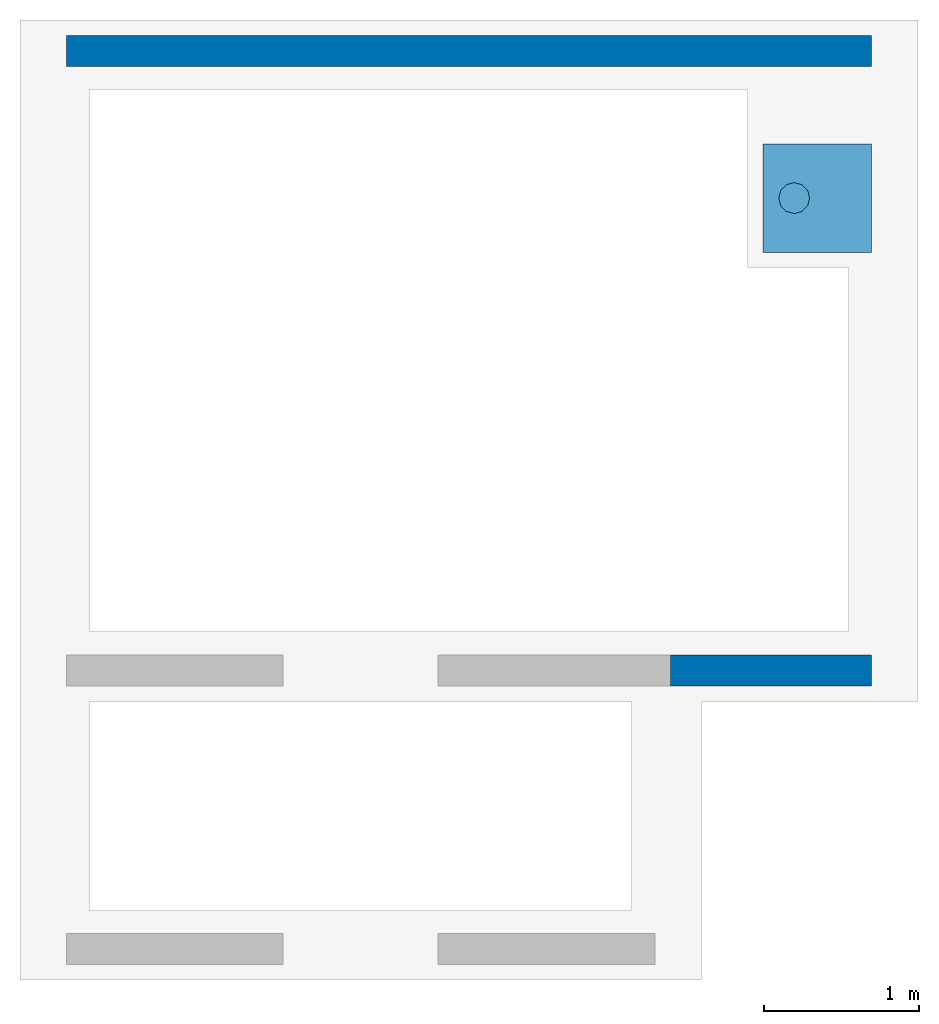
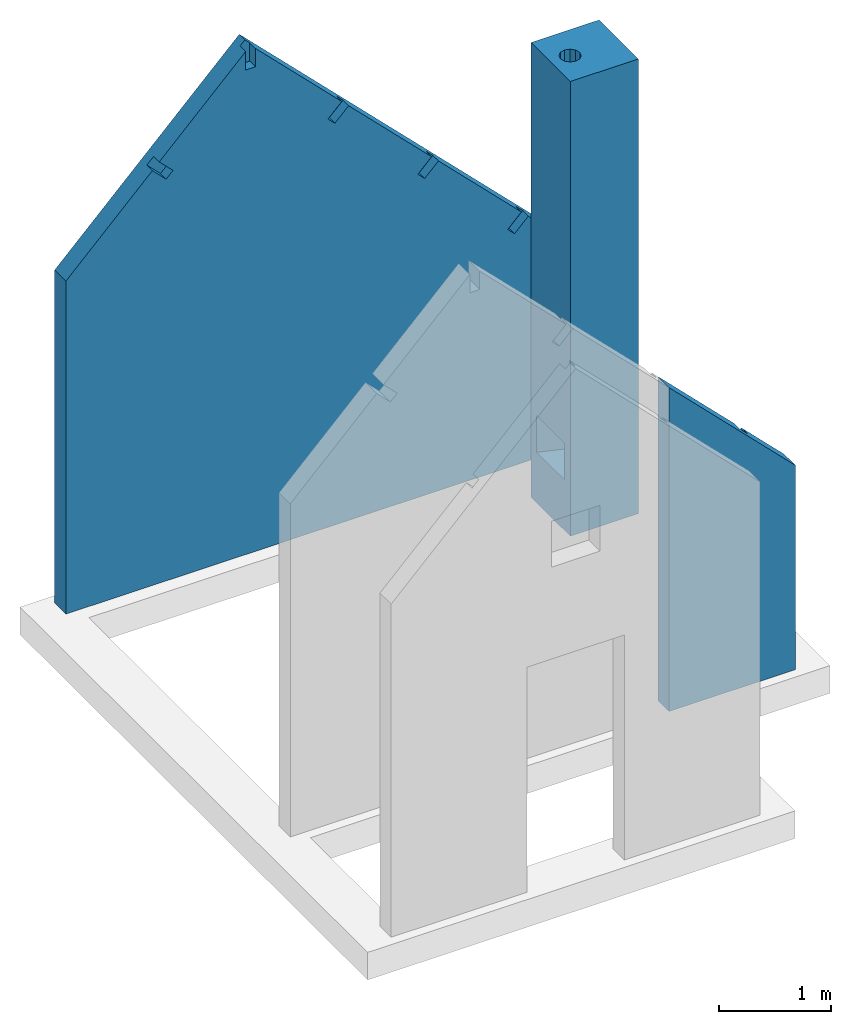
# One storey, part 2 of 2: 2 walls, 1 chimney.
"""IFC4 building model written with IfcOpenShell, lengths in millimetres."""

from ifc_helpers import new_model, si_unit, frame, origin_with_axes, place, context, subcontext, project, spatial, triangles, material, type_object, element, save


model = new_model("IFC4")

# Units and contexts
model_context = context("Model", 3, world=origin_with_axes())
body_context = subcontext(model_context, "Body", "Model", "MODEL_VIEW")
ifc_project = project(units=[si_unit("LENGTHUNIT", "METRE", prefix="MILLI"), si_unit("AREAUNIT", "SQUARE_METRE"), si_unit("VOLUMEUNIT", "CUBIC_METRE")], contexts=[model_context])

# Sites, building, storey
site_1_placement = place(None, origin_with_axes())
site_1 = spatial("IfcSite", under=ifc_project, at=site_1_placement, Name="environment - site", CompositionType="COMPLEX")
site_2_placement = place(site_1_placement, frame((5800.000000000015, 5800.000000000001, -1300.0000000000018), z_axis=(0.0, 0.0, 1.0), x_axis=(1.0, 0.0, 0.0)))
site_2 = spatial("IfcSite", under=site_1, at=site_2_placement, Name="house - site", CompositionType="PARTIAL")
building_placement = place(site_2_placement, frame((-2799.999999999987, -2799.9999999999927, 1300.0), z_axis=(0.0, 0.0, 1.0), x_axis=(1.0, 0.0, 0.0)))
building = spatial("IfcBuilding", under=site_2, at=building_placement, Name="Single-family house", CompositionType="ELEMENT")
storey_placement = place(building_placement, origin_with_axes())
storey = spatial("IfcBuildingStorey", under=building, at=storey_placement, Name="00 groundfloor", CompositionType="ELEMENT", Elevation=-1.8047785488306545e-12)

# Walls
ifc_material = material(Name="stone_sand-lime")
wall_type_1 = type_object("IfcWallType", Name="house - outer wall - house back", PredefinedType="SOLIDWALL")
wall_1_placement = place(storey_placement, frame((200.00000000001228, 5900.000000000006, -3.6095570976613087e-13), z_axis=(0.0, 0.0, 1.0), x_axis=(1.0, 0.0, 0.0)))
element("IfcWall", 1, at=wall_1_placement, inside=storey, type_object=wall_type_1, material=ifc_material, Name="house - outer wall - house back", ObjectType="solidwall", context=body_context, shape_type="Tessellation", body=[
    triangles([(-1.739355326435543e-11, 99.99999999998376, 3375.7359312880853), (5200.000000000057, 99.9999999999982, -250.00000000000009), (-2.752287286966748e-12, 99.9999999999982, -250.00000000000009), (5200.000000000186, 99.99999999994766, 1975.7359312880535), (1899.9999999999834, 99.99999999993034, 5275.7359312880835), (-1.739355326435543e-11, 99.99999999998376, 3375.7359312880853), (4.714983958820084e-12, -99.99999999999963, -250.00000000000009), (-9.813483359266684e-12, -100.0000000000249, 3375.735931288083), (-2.752287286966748e-12, 99.9999999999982, -250.00000000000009), (5200.000000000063, -100.00000000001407, -249.99999999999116), (5200.000000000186, 99.99999999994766, 1975.7359312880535), (5200.000000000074, -100.00000000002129, 1975.7359312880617), (5200.000000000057, 99.9999999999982, -250.00000000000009), (4760.355339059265, -100.00000000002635, 2415.3805922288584), (4618.933982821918, -100.00000000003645, 2273.9592359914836), (5200.000000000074, -100.00000000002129, 1975.7359312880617), (3835.355339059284, -100.00000000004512, 3340.380592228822), (3693.9339828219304, -100.00000000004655, 3198.9592359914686), (4689.64466094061, -100.00000000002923, 2486.091270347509), (5200.000000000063, -100.00000000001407, -249.99999999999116), (-9.813483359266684e-12, -100.0000000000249, 3375.735931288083), (4.714983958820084e-12, -99.99999999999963, -250.00000000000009), (4548.223304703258, -100.00000000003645, 2344.6699141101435), (3623.2233047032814, -100.00000000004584, 3269.6699141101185), (3764.6446609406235, -100.00000000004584, 3411.091270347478), (1031.0660171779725, -100.00000000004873, 4123.959235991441), (889.6446609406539, -100.00000000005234, 4265.380592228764), (2768.933982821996, -100.0000000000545, 4123.959235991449), (2910.355339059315, -100.000000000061, 4265.380592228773), (1949.9999999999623, -100.00000000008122, 5225.735931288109), (1949.999999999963, -100.00000000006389, 5025.735931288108), (2839.6446609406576, -100.00000000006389, 4336.0912703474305), (1101.7766952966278, -100.00000000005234, 4194.669914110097), (2698.2233047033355, -100.0000000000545, 4194.669914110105), (960.3553390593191, -100.00000000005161, 4336.091270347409), (1849.9999999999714, -100.00000000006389, 5025.735931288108), (1849.9999999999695, -100.00000000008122, 5225.735931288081), (1066.4213562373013, -9.24046617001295e-11, 4159.314575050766), (889.6446609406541, -9.312657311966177e-11, 4265.380592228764), (1031.06601717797, -9.24046617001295e-11, 4123.959235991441), (1101.7766952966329, -9.312657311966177e-11, 4194.66991411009), (960.3553390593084, -8.446363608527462e-11, 4336.091270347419), (2910.355339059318, -8.013216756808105e-11, 4265.380592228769), (2733.578643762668, -7.435687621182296e-11, 4159.31457505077), (2768.9339828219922, -7.36349647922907e-11, 4123.959235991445), (2698.2233047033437, -7.36349647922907e-11, 4194.669914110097), (2839.6446609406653, -8.013216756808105e-11, 4336.09127034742), (3835.3553390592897, -7.868834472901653e-11, 3340.3805922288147), (3658.578643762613, -7.219114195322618e-11, 3234.3145750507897), (3693.9339828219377, -7.291305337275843e-11, 3198.9592359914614), (3623.2233047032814, -7.219114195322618e-11, 3269.669914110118), (3764.644660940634, -7.94102561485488e-11, 3411.09127034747), (4760.355339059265, -6.930349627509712e-11, 2415.3805922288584), (4583.578643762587, -7.002540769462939e-11, 2309.314575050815), (4618.933982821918, -7.002540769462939e-11, 2273.9592359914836), (4548.223304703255, -7.002540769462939e-11, 2344.66991411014), (4689.644660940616, -7.7244521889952e-11, 2486.0912703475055), (4760.355339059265, -100.00000000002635, 2415.3805922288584), (4618.933982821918, -7.002540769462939e-11, 2273.9592359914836), (4618.933982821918, -100.00000000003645, 2273.9592359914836), (4760.355339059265, -6.930349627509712e-11, 2415.3805922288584), (3623.2233047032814, -7.219114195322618e-11, 3269.669914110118), (3764.6446609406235, -100.00000000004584, 3411.091270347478), (3623.2233047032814, -100.00000000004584, 3269.6699141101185), (3764.644660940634, -7.94102561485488e-11, 3411.09127034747), (1949.9999999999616, -9.023892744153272e-11, 5225.735931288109), (1949.999999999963, -100.00000000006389, 5025.735931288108), (1949.9999999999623, -100.00000000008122, 5225.735931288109), (1949.9999999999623, -9.023892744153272e-11, 5025.735931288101), (1031.0660171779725, -100.00000000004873, 4123.959235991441), (889.6446609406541, -9.312657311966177e-11, 4265.380592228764), (889.6446609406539, -100.00000000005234, 4265.380592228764), (1031.06601717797, -9.24046617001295e-11, 4123.959235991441), (4548.223304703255, -7.002540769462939e-11, 2344.66991411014), (4689.64466094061, -100.00000000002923, 2486.091270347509), (4548.223304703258, -100.00000000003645, 2344.6699141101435), (4689.644660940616, -7.7244521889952e-11, 2486.0912703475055), (1849.9999999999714, -100.00000000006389, 5025.735931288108), (1849.999999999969, -9.096083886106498e-11, 5225.735931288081), (1849.9999999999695, -100.00000000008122, 5225.735931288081), (1849.9999999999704, -9.096083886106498e-11, 5025.735931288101), (2698.2233047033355, -100.0000000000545, 4194.669914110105), (2839.6446609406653, -8.013216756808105e-11, 4336.09127034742), (2839.6446609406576, -100.00000000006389, 4336.0912703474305), (2698.2233047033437, -7.36349647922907e-11, 4194.669914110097), (2910.355339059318, -8.013216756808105e-11, 4265.380592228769), (2768.933982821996, -100.0000000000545, 4123.959235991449), (2910.355339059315, -100.000000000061, 4265.380592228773), (2768.9339828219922, -7.36349647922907e-11, 4123.959235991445), (3835.355339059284, -100.00000000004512, 3340.380592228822), (3693.9339828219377, -7.291305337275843e-11, 3198.9592359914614), (3693.9339828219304, -100.00000000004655, 3198.9592359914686), (3835.3553390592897, -7.868834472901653e-11, 3340.3805922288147), (1849.9999999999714, -100.00000000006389, 5025.735931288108), (1899.9999999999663, -9.023892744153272e-11, 5025.735931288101), (1849.9999999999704, -9.096083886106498e-11, 5025.735931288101), (1949.999999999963, -100.00000000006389, 5025.735931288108), (1949.9999999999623, -9.023892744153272e-11, 5025.735931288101), (3693.9339828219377, -7.291305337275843e-11, 3198.9592359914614), (3623.2233047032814, -100.00000000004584, 3269.6699141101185), (3693.9339828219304, -100.00000000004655, 3198.9592359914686), (3623.2233047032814, -7.219114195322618e-11, 3269.669914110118), (3658.578643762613, -7.219114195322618e-11, 3234.3145750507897), (960.3553390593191, -100.00000000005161, 4336.091270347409), (1101.7766952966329, -9.312657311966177e-11, 4194.66991411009), (1101.7766952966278, -100.00000000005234, 4194.669914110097), (960.3553390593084, -8.446363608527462e-11, 4336.091270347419), (2768.933982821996, -100.0000000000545, 4123.959235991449), (2698.2233047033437, -7.36349647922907e-11, 4194.669914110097), (2698.2233047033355, -100.0000000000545, 4194.669914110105), (2733.578643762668, -7.435687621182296e-11, 4159.31457505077), (2768.9339828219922, -7.36349647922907e-11, 4123.959235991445), (1031.0660171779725, -100.00000000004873, 4123.959235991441), (1066.4213562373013, -9.24046617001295e-11, 4159.314575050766), (1031.06601717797, -9.24046617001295e-11, 4123.959235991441), (1101.7766952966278, -100.00000000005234, 4194.669914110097), (1101.7766952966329, -9.312657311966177e-11, 4194.66991411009), (4548.223304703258, -100.00000000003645, 2344.6699141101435), (4583.578643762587, -7.002540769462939e-11, 2309.314575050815), (4548.223304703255, -7.002540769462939e-11, 2344.66991411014), (4618.933982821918, -100.00000000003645, 2273.9592359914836), (4618.933982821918, -7.002540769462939e-11, 2273.9592359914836), (1949.9999999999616, -9.023892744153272e-11, 5225.735931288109), (1899.9999999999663, -9.023892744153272e-11, 5025.735931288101), (1949.9999999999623, -9.023892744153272e-11, 5025.735931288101), (1849.9999999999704, -9.096083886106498e-11, 5025.735931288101), (1849.999999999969, -9.096083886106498e-11, 5225.735931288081), (1899.9999999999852, -9.023892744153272e-11, 5275.7359312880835), (1849.999999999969, -9.096083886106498e-11, 5225.735931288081), (960.3553390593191, -100.00000000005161, 4336.091270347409), (1849.9999999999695, -100.00000000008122, 5225.735931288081), (960.3553390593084, -8.446363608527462e-11, 4336.091270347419), (1899.9999999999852, -9.023892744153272e-11, 5275.7359312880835), (1899.9999999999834, 99.99999999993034, 5275.7359312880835), (889.6446609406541, -9.312657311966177e-11, 4265.380592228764), (-9.813483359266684e-12, -100.0000000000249, 3375.735931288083), (889.6446609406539, -100.00000000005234, 4265.380592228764), (-1.739355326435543e-11, 99.99999999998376, 3375.7359312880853), (5200.000000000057, 99.9999999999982, -250.00000000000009), (4.714983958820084e-12, -99.99999999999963, -250.00000000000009), (-2.752287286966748e-12, 99.9999999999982, -250.00000000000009), (5200.000000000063, -100.00000000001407, -249.99999999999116), (3764.6446609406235, -100.00000000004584, 3411.091270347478), (2910.355339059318, -8.013216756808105e-11, 4265.380592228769), (2910.355339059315, -100.000000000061, 4265.380592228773), (4689.64466094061, -100.00000000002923, 2486.091270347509), (3835.3553390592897, -7.868834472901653e-11, 3340.3805922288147), (3835.355339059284, -100.00000000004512, 3340.380592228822), (5200.000000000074, -100.00000000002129, 1975.7359312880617), (4760.355339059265, -6.930349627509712e-11, 2415.3805922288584), (4760.355339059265, -100.00000000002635, 2415.3805922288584), (1899.9999999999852, -9.023892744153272e-11, 5275.7359312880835), (5200.000000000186, 99.99999999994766, 1975.7359312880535), (1899.9999999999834, 99.99999999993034, 5275.7359312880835), (1949.9999999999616, -9.023892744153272e-11, 5225.735931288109), (2839.6446609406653, -8.013216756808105e-11, 4336.09127034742), (1949.9999999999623, -100.00000000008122, 5225.735931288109), (2839.6446609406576, -100.00000000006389, 4336.0912703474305), (3764.644660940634, -7.94102561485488e-11, 3411.09127034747), (4689.644660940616, -7.7244521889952e-11, 2486.0912703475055)], [[1, 2, 3], [2, 1, 4], [4, 1, 5], [6, 7, 8], [7, 6, 9], [10, 11, 12], [11, 10, 13], [14, 15, 16], [17, 18, 19], [20, 21, 22], [21, 20, 16], [21, 16, 15], [21, 15, 23], [21, 23, 19], [21, 19, 18], [21, 18, 24], [21, 24, 25], [21, 25, 26], [21, 26, 27], [25, 28, 26], [28, 25, 29], [30, 31, 32], [28, 33, 26], [33, 28, 34], [33, 34, 35], [35, 34, 32], [35, 32, 36], [35, 36, 37], [36, 32, 31], [38, 39, 40], [39, 38, 41], [39, 41, 42], [43, 44, 45], [44, 43, 46], [46, 43, 47], [48, 49, 50], [49, 48, 51], [51, 48, 52], [53, 54, 55], [54, 53, 56], [56, 53, 57], [58, 59, 60], [59, 58, 61], [62, 63, 64], [63, 62, 65], [66, 67, 68], [67, 66, 69], [70, 71, 72], [71, 70, 73], [74, 75, 76], [75, 74, 77], [78, 79, 80], [79, 78, 81], [82, 83, 84], [83, 82, 85], [86, 87, 88], [87, 86, 89], [90, 91, 92], [91, 90, 93], [94, 95, 96], [95, 94, 97], [95, 97, 98], [99, 100, 101], [100, 99, 102], [102, 99, 103], [104, 105, 106], [105, 104, 107], [108, 109, 110], [109, 108, 111], [111, 108, 112], [113, 114, 115], [114, 113, 116], [114, 116, 117], [118, 119, 120], [119, 118, 121], [119, 121, 122], [123, 124, 125], [124, 123, 126], [126, 123, 127], [127, 123, 128], [129, 130, 131], [130, 129, 132], [132, 129, 133], [132, 133, 134], [135, 136, 137], [136, 135, 138], [138, 135, 132], [138, 132, 134], [139, 140, 141], [140, 139, 142], [143, 144, 145], [146, 147, 148], [149, 150, 151], [152, 153, 154], [153, 152, 155], [153, 155, 156], [156, 155, 157], [156, 157, 158], [153, 156, 144], [153, 144, 159], [159, 144, 143], [153, 159, 147], [153, 147, 160], [160, 147, 146], [153, 160, 150], [153, 150, 149]]),
])
wall_type_2 = type_object("IfcWallType", Name="house - outer wall - house front right", PredefinedType="SOLIDWALL")
wall_2_placement = place(storey_placement, frame((5400.000000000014, 1899.9999999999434, -2.1657342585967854e-11), z_axis=(7.573624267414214e-15, -8.283039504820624e-30, 1.0), x_axis=(-1.0, -1.0824674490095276e-14, 7.573624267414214e-15)))
element("IfcWall", 2, at=wall_2_placement, inside=storey, type_object=wall_type_2, material=ifc_material, Name="house - outer wall - house front right", ObjectType="solidwall", context=body_context, shape_type="Tessellation", body=[
    triangles([(1299.9999999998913, -100.00000000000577, 3275.7359312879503), (1.0106759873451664e-11, -99.99999999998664, -249.9999999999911), (1299.9999999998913, -100.0000000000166, -249.9999999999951), (651.7766952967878, -99.9999999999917, 2344.6699141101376), (581.0660171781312, -99.99999999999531, 2273.9592359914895), (6.136247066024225e-11, -99.99999999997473, 1975.7359312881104), (510.3553390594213, -99.99999999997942, 2486.0912703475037), (439.6446609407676, -99.99999999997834, 2415.380592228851), (616.4213562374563, -9.420944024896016e-11, 2309.314575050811), (439.6446609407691, -9.312657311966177e-11, 2415.3805922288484), (581.0660171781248, -9.384848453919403e-11, 2273.95923599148), (651.7766952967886, -8.987797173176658e-11, 2344.6699141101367), (510.35533905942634, -9.384848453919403e-11, 2486.0912703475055), (510.3553390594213, -99.99999999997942, 2486.0912703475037), (651.7766952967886, -8.987797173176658e-11, 2344.6699141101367), (651.7766952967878, -99.9999999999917, 2344.6699141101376), (510.35533905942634, -9.384848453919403e-11, 2486.0912703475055), (581.0660171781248, -9.384848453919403e-11, 2273.95923599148), (439.6446609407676, -99.99999999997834, 2415.380592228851), (581.0660171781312, -99.99999999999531, 2273.9592359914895), (439.6446609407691, -9.312657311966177e-11, 2415.3805922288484), (581.0660171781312, -99.99999999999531, 2273.9592359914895), (616.4213562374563, -9.420944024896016e-11, 2309.314575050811), (581.0660171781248, -9.384848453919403e-11, 2273.95923599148), (651.7766952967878, -99.9999999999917, 2344.6699141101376), (651.7766952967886, -8.987797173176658e-11, 2344.6699141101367), (1299.9999999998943, 99.99999999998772, -249.99999999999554), (1.0106759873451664e-11, -99.99999999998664, -249.9999999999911), (-2.093543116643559e-11, 99.99999999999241, -250.00000000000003), (1299.9999999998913, -100.0000000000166, -249.9999999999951), (6.136247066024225e-11, -99.99999999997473, 1975.7359312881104), (-2.093543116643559e-11, 99.99999999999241, -250.00000000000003), (1.0106759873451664e-11, -99.99999999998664, -249.9999999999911), (-2.165734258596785e-12, 100.00000000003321, 1975.7359312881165), (1299.9999999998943, 99.99999999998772, -249.99999999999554), (1299.9999999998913, -100.00000000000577, 3275.7359312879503), (1299.9999999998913, -100.0000000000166, -249.9999999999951), (1299.9999999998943, 99.99999999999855, 3275.7359312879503), (1299.9999999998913, -100.00000000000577, 3275.7359312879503), (510.35533905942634, -9.384848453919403e-11, 2486.0912703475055), (510.3553390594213, -99.99999999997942, 2486.0912703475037), (-2.165734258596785e-12, 100.00000000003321, 1975.7359312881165), (439.6446609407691, -9.312657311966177e-11, 2415.3805922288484), (1299.9999999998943, 99.99999999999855, 3275.7359312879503), (6.136247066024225e-11, -99.99999999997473, 1975.7359312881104), (439.6446609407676, -99.99999999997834, 2415.380592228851), (-2.165734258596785e-12, 100.00000000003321, 1975.7359312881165), (1299.9999999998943, 99.99999999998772, -249.99999999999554), (-2.093543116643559e-11, 99.99999999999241, -250.00000000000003), (1299.9999999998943, 99.99999999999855, 3275.7359312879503)], [[1, 2, 3], [2, 1, 4], [2, 4, 5], [2, 5, 6], [4, 1, 7], [8, 6, 5], [9, 10, 11], [10, 9, 12], [10, 12, 13], [14, 15, 16], [15, 14, 17], [18, 19, 20], [19, 18, 21], [22, 23, 24], [23, 22, 25], [23, 25, 26], [27, 28, 29], [28, 27, 30], [31, 32, 33], [32, 31, 34], [35, 36, 37], [36, 35, 38], [39, 40, 41], [42, 43, 44], [43, 42, 45], [43, 45, 46], [44, 43, 40], [44, 40, 39], [47, 48, 49], [48, 47, 50]]),
])

# Chimney
chimney_type = type_object("IfcChimneyType", Name="house - chimney", PredefinedType="USERDEFINED")
chimney_placement = place(storey_placement, frame((4700.000000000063, 5299.999999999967, -1.8769696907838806e-11), z_axis=(0.0, 0.0, 1.0), x_axis=(-1.3322676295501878e-15, -1.0, 0.0)))
element("IfcChimney", 3, at=chimney_placement, inside=storey, type_object=chimney_type, material=ifc_material, Name="house - chimney", ObjectType="flue", context=body_context, shape_type="Tessellation", body=[
    triangles([(699.9999999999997, 699.9999999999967, -249.99999999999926), (699.9999999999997, 0.0, 4700.000000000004), (699.9999999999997, 0.0, -249.99999999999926), (699.9999999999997, 699.9999999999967, 4700.000000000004), (0.0, 0.0, 4700.000000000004), (263.3974596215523, 150.00000000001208, 4700.000000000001), (250.00000000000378, 200.00000000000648, 4700.000000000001), (299.9999999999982, 113.39745962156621, 4700.000000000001), (699.9999999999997, 0.0, 4700.000000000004), (349.99999999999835, 99.99999999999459, 4700.000000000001), (399.9999999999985, 113.39745962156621, 4700.000000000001), (436.6025403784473, 150.00000000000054, 4700.000000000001), (450.0000000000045, 200.00000000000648, 4700.000000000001), (699.9999999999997, 699.9999999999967, 4700.000000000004), (-2.887645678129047e-12, 700.0000000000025, 4700.000000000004), (263.3974596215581, 250.0000000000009, 4700.000000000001), (299.9999999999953, 286.602540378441, 4700.000000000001), (350.00000000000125, 299.99999999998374, 4700.000000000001), (399.9999999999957, 286.6025403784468, 4700.000000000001), (436.6025403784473, 250.00000000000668, 4700.000000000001), (699.9999999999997, 699.9999999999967, -249.99999999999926), (0.0, 0.0, -249.99999999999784), (-2.887645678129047e-12, 700.0000000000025, -249.99999999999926), (699.9999999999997, 0.0, -249.99999999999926), (499.9999999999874, 300.0000000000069, 699.9999999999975), (199.99999999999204, 299.9999999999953, 299.99999999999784), (499.9999999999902, 299.99999999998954, 299.99999999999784), (199.99999999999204, 299.9999999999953, 699.9999999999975), (-2.887645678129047e-12, 700.0000000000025, 4700.000000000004), (699.9999999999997, 699.9999999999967, -249.99999999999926), (-2.887645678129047e-12, 700.0000000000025, -249.99999999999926), (699.9999999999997, 699.9999999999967, 4700.000000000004), (199.99999999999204, 299.9999999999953, 299.99999999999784), (100.00000000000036, 0.0, 700.000000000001), (100.00000000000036, 0.0, 300.0000000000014), (116.66666666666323, 50.00000000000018, 700.0000000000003), (199.99999999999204, 299.9999999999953, 699.9999999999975), (599.9999999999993, 0.0, 300.0000000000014), (199.99999999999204, 299.9999999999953, 299.99999999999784), (100.00000000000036, 0.0, 300.0000000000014), (499.9999999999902, 299.99999999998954, 299.99999999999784), (699.9999999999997, 0.0, -249.99999999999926), (599.9999999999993, 0.0, 300.0000000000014), (0.0, 0.0, -249.99999999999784), (699.9999999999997, 0.0, 4700.000000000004), (599.9999999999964, 0.0, 700.000000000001), (100.00000000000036, 0.0, 700.000000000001), (100.00000000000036, 0.0, 300.0000000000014), (0.0, 0.0, 4700.000000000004), (-2.887645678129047e-12, 700.0000000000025, 4700.000000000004), (0.0, 0.0, -249.99999999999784), (0.0, 0.0, 4700.000000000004), (-2.887645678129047e-12, 700.0000000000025, -249.99999999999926), (116.66666666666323, 50.00000000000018, 700.0000000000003), (599.9999999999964, 0.0, 700.000000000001), (100.00000000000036, 0.0, 700.000000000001), (583.3333333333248, 50.00000000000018, 700.0000000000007), (583.3333333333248, 50.00000000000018, 700.0000000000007), (599.9999999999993, 0.0, 300.0000000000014), (599.9999999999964, 0.0, 700.000000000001), (499.9999999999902, 299.99999999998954, 299.99999999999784), (499.9999999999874, 300.0000000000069, 699.9999999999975)], [[1, 2, 3], [2, 1, 4], [5, 6, 7], [6, 5, 8], [8, 5, 9], [8, 9, 10], [10, 9, 11], [11, 9, 12], [12, 9, 13], [5, 14, 15], [14, 5, 16], [16, 5, 7], [14, 16, 17], [14, 17, 18], [14, 18, 19], [14, 19, 20], [14, 20, 13], [14, 13, 9], [21, 22, 23], [22, 21, 24], [25, 26, 27], [26, 25, 28], [29, 30, 31], [30, 29, 32], [33, 34, 35], [34, 33, 36], [36, 33, 37], [38, 39, 40], [39, 38, 41], [42, 43, 44], [43, 42, 45], [43, 45, 46], [46, 45, 47], [44, 48, 49], [48, 44, 43], [49, 48, 47], [49, 47, 45], [50, 51, 52], [51, 50, 53], [54, 55, 56], [55, 54, 57], [58, 59, 60], [59, 58, 61], [61, 58, 62]]),
    triangles([(263.3974596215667, 250.00000000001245, 899.9999999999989), (299.9999999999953, 286.602540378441, 4700.000000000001), (263.3974596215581, 250.0000000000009, 4700.000000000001), (299.9999999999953, 286.602540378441, 899.9999999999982), (436.6025403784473, 150.00000000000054, 4700.000000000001), (399.9999999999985, 113.39745962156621, 900.000000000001), (399.9999999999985, 113.39745962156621, 4700.000000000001), (436.6025403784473, 150.00000000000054, 900.0000000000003), (436.6025403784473, 250.00000000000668, 4700.000000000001), (450.0000000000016, 200.00000000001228, 899.9999999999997), (450.0000000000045, 200.00000000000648, 4700.000000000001), (436.6025403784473, 250.00000000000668, 899.9999999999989), (63.962038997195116, 50.00000000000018, 700.0000000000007), (583.3333333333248, 50.00000000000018, 700.0000000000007), (116.66666666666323, 50.00000000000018, 700.0000000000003), (180.62870566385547, 100.00000000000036, 900.000000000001), (636.0379610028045, 50.000000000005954, 700.0000000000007), (519.3712943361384, 100.00000000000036, 900.000000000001), (349.9999999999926, 99.99999999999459, 900.000000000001), (452.7046276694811, 299.9999999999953, 899.9999999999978), (163.96203899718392, 349.99999999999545, 699.999999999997), (536.0379610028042, 350.00000000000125, 699.999999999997), (247.29537233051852, 300.0000000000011, 899.9999999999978), (350.0000000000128, 299.99999999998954, 899.9999999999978), (116.66666666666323, 50.00000000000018, 700.0000000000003), (163.96203899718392, 349.99999999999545, 699.999999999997), (63.962038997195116, 50.00000000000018, 700.0000000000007), (199.99999999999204, 299.9999999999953, 699.9999999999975), (536.0379610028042, 350.00000000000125, 699.999999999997), (499.9999999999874, 300.0000000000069, 699.9999999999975), (583.3333333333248, 50.00000000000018, 700.0000000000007), (636.0379610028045, 50.000000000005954, 700.0000000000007), (452.7046276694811, 299.9999999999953, 899.9999999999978), (399.9999999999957, 286.6025403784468, 899.9999999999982), (350.0000000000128, 299.99999999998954, 899.9999999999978), (436.6025403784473, 250.00000000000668, 899.9999999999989), (450.0000000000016, 200.00000000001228, 899.9999999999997), (399.9999999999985, 113.39745962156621, 900.000000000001), (519.3712943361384, 100.00000000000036, 900.000000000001), (349.9999999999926, 99.99999999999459, 900.000000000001), (436.6025403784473, 150.00000000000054, 900.0000000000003), (250.00000000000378, 200.00000000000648, 899.9999999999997), (263.3974596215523, 150.00000000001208, 4700.000000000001), (263.3974596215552, 150.00000000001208, 900.0000000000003), (250.00000000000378, 200.00000000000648, 4700.000000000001), (247.29537233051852, 300.0000000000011, 899.9999999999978), (263.3974596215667, 250.00000000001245, 899.9999999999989), (250.00000000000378, 200.00000000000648, 899.9999999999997), (299.9999999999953, 286.602540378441, 899.9999999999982), (350.0000000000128, 299.99999999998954, 899.9999999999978), (180.62870566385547, 100.00000000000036, 900.000000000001), (299.99999999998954, 113.39745962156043, 900.000000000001), (349.9999999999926, 99.99999999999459, 900.000000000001), (263.3974596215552, 150.00000000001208, 900.0000000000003), (350.00000000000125, 299.99999999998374, 4700.000000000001), (299.9999999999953, 286.602540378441, 899.9999999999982), (350.0000000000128, 299.99999999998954, 899.9999999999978), (299.9999999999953, 286.602540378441, 4700.000000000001), (399.9999999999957, 286.6025403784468, 899.9999999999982), (350.00000000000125, 299.99999999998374, 4700.000000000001), (350.0000000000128, 299.99999999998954, 899.9999999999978), (399.9999999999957, 286.6025403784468, 4700.000000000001), (299.9999999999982, 113.39745962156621, 4700.000000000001), (349.9999999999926, 99.99999999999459, 900.000000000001), (299.99999999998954, 113.39745962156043, 900.000000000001), (349.99999999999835, 99.99999999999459, 4700.000000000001), (450.0000000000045, 200.00000000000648, 4700.000000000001), (436.6025403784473, 150.00000000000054, 900.0000000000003), (436.6025403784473, 150.00000000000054, 4700.000000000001), (450.0000000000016, 200.00000000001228, 899.9999999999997), (519.3712943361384, 100.00000000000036, 900.000000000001), (536.0379610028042, 350.00000000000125, 699.999999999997), (636.0379610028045, 50.000000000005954, 700.0000000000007), (452.7046276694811, 299.9999999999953, 899.9999999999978), (436.6025403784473, 250.00000000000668, 899.9999999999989), (399.9999999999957, 286.6025403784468, 4700.000000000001), (399.9999999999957, 286.6025403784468, 899.9999999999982), (436.6025403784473, 250.00000000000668, 4700.000000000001), (349.99999999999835, 99.99999999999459, 4700.000000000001), (399.9999999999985, 113.39745962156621, 900.000000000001), (349.9999999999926, 99.99999999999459, 900.000000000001), (399.9999999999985, 113.39745962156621, 4700.000000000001), (263.3974596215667, 250.00000000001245, 899.9999999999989), (250.00000000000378, 200.00000000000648, 4700.000000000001), (250.00000000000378, 200.00000000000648, 899.9999999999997), (263.3974596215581, 250.0000000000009, 4700.000000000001), (163.96203899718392, 349.99999999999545, 699.999999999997), (180.62870566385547, 100.00000000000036, 900.000000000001), (63.962038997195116, 50.00000000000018, 700.0000000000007), (247.29537233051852, 300.0000000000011, 899.9999999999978), (263.3974596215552, 150.00000000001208, 900.0000000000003), (299.9999999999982, 113.39745962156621, 4700.000000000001), (299.99999999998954, 113.39745962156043, 900.000000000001), (263.3974596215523, 150.00000000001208, 4700.000000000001)], [[1, 2, 3], [2, 1, 4], [5, 6, 7], [6, 5, 8], [9, 10, 11], [10, 9, 12], [13, 14, 15], [14, 13, 16], [14, 16, 17], [17, 16, 18], [18, 16, 19], [20, 21, 22], [21, 20, 23], [23, 20, 24], [25, 26, 27], [26, 25, 28], [26, 28, 29], [29, 28, 30], [29, 30, 31], [29, 31, 32], [33, 34, 35], [34, 33, 36], [36, 33, 37], [38, 39, 40], [39, 38, 41], [39, 41, 37], [39, 37, 33], [42, 43, 44], [43, 42, 45], [46, 47, 48], [47, 46, 49], [49, 46, 50], [51, 52, 53], [52, 51, 54], [54, 51, 48], [48, 51, 46], [55, 56, 57], [56, 55, 58], [59, 60, 61], [60, 59, 62], [63, 64, 65], [64, 63, 66], [67, 68, 69], [68, 67, 70], [71, 72, 73], [72, 71, 74], [75, 76, 77], [76, 75, 78], [79, 80, 81], [80, 79, 82], [83, 84, 85], [84, 83, 86], [87, 88, 89], [88, 87, 90], [91, 92, 93], [92, 91, 94]]),
])

save(model, "model.ifc")
